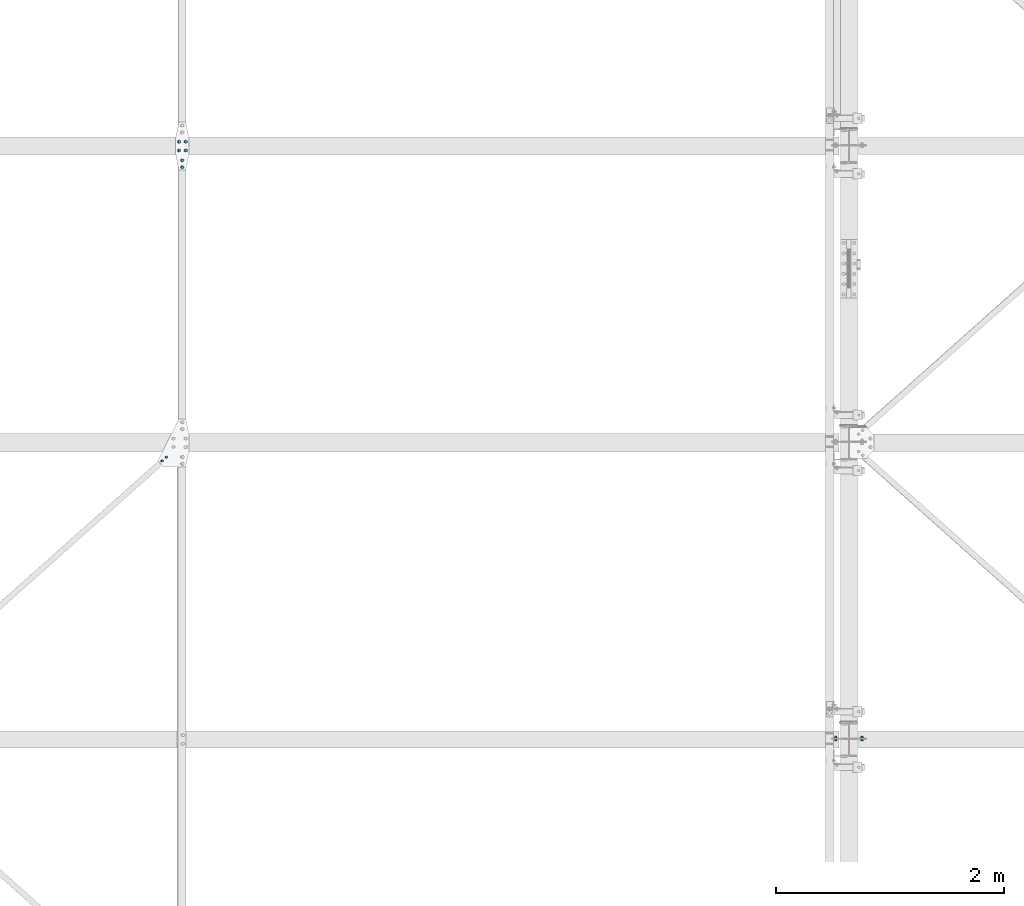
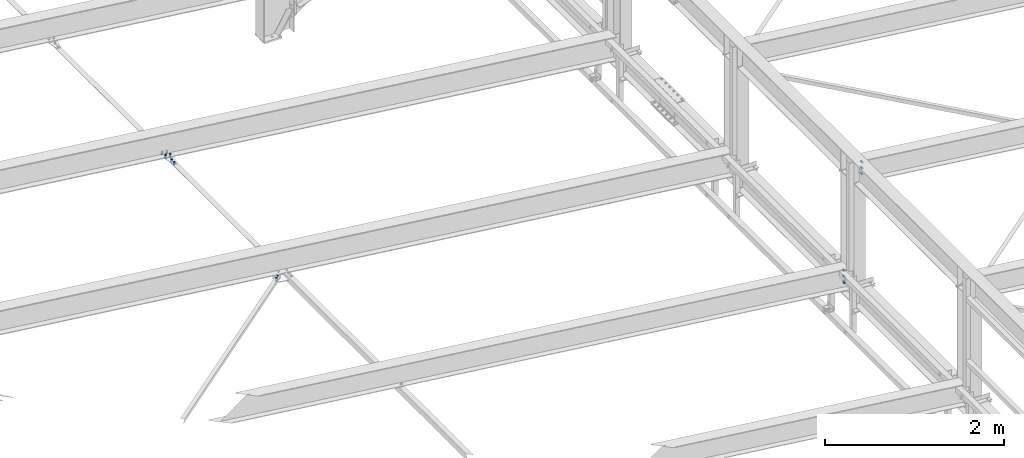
# One storey, part 270 of 3134: 5 mechanical fasteners, 5 elements without a shape of their own.
"""IFC2X3 building model written with IfcOpenShell, lengths in millimetres."""

from ifc_helpers import new_model, si_unit, frame, origin_with_axes, place, context, subcontext, project, spatial, faceted_brep, source, transform, mapped, material, type_object, element, aggregate, save


model = new_model("IFC2X3")

# Units and contexts
model_context = context("Model", 3, precision=1e-05, world=origin_with_axes())
body_context = subcontext(model_context, "Body", "Model", "MODEL_VIEW")
ifc_project = project(units=[si_unit("LENGTHUNIT", "METRE", prefix="MILLI"), si_unit("AREAUNIT", "SQUARE_METRE"), si_unit("VOLUMEUNIT", "CUBIC_METRE"), si_unit("MASSUNIT", "GRAM", prefix="KILO"), si_unit("TIMEUNIT", "SECOND"), si_unit("PLANEANGLEUNIT", "RADIAN"), si_unit("SOLIDANGLEUNIT", "STERADIAN"), si_unit("THERMODYNAMICTEMPERATUREUNIT", "DEGREE_CELSIUS"), si_unit("LUMINOUSINTENSITYUNIT", "LUMEN")], contexts=[model_context])

# Site, building, storey
site_placement = place(None, origin_with_axes())
site = spatial("IfcSite", under=ifc_project, at=site_placement, CompositionType="ELEMENT")
building_placement = place(site_placement, origin_with_axes())
building = spatial("IfcBuilding", under=site, at=building_placement, Name="Undefined", CompositionType="ELEMENT")
storey_placement = place(building_placement, origin_with_axes())
storey = spatial("IfcBuildingStorey", under=building, at=storey_placement, Name="Undefined", CompositionType="ELEMENT", Elevation=0.0)

# Assembly, mechanical fastener
assembly_1_placement = place(storey_placement, origin_with_axes())
assembly_1 = element("IfcElementAssembly", 1, at=assembly_1_placement, inside=storey, Name="PL8", AssemblyPlace="NOTDEFINED", PredefinedType="RIGID_FRAME")
ifc_material = material(Name="8.8")
mechanical_fastener_type = type_object("IfcMechanicalFastenerType", Name="Bolt assembly")
shared_shape_1 = source(origin_with_axes(), body_context, "Body", "Brep", [
    faceted_brep([(10.9696551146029, -36.998574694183, 0.0), (5.48482755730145, -36.998574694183, 9.5), (-5.48482755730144, -36.998574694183, 9.5), (-10.9696551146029, -36.998574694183, 1.34339530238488e-15), (-5.48482755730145, -36.998574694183, -9.5), (5.48482755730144, -36.998574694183, -9.50000000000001), (5.48482755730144, -28.998574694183, -9.50000000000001), (-5.48482755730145, -28.998574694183, -9.5), (-10.9696551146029, -28.998574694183, 1.34339530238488e-15), (-5.48482755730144, -28.998574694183, 9.5), (5.48482755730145, -28.998574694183, 9.5), (10.9696551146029, -28.998574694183, 0.0), (6.0, -28.998574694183, 0.0), (5.19615242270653, -28.998574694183, 3.00000000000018), (2.99999999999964, -28.998574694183, 5.19615242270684), (-6.21801588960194e-13, -28.998574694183, 6.0), (-3.00000000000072, -28.998574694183, 5.19615242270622), (-5.19615242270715, -28.998574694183, 2.9999999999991), (-6.0, -28.998574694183, -1.24360317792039e-12), (-5.19615242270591, -28.998574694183, -3.00000000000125), (-2.99999999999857, -28.998574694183, -5.19615242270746), (1.85874342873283e-12, -28.998574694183, -6.0), (3.00000000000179, -28.998574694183, -5.1961524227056), (5.19615242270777, -28.998574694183, -2.99999999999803), (5.19615242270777, -3.99857469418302, -2.99999999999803), (3.00000000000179, -3.99857469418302, -5.1961524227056), (1.85874342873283e-12, -3.99857469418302, -6.0), (-2.99999999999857, -3.99857469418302, -5.19615242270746), (-5.19615242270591, -3.99857469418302, -3.00000000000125), (-6.0, -3.99857469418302, -1.24360317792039e-12), (-5.19615242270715, -3.99857469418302, 2.9999999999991), (-3.00000000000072, -3.99857469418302, 5.19615242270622), (-6.21801588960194e-13, -3.99857469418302, 6.0), (2.99999999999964, -3.99857469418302, 5.19615242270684), (5.19615242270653, -3.99857469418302, 3.00000000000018), (6.0, -3.99857469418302, 0.0), (10.9696551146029, 4.00000000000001, 0.0), (5.48482755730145, 4.00000000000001, 9.5), (-5.48482755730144, 4.00000000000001, 9.5), (-10.9696551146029, 4.00000000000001, 1.34339530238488e-15), (-5.48482755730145, 4.00000000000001, -9.5), (5.48482755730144, 4.00000000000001, -9.50000000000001), (5.48482755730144, 14.0, -9.50000000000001), (-5.48482755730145, 14.0, -9.5), (-10.9696551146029, 14.0, 1.34339530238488e-15), (-5.48482755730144, 14.0, 9.5), (5.48482755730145, 14.0, 9.5), (10.9696551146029, 14.0, 0.0)], [[[0, 1, 2, 3, 4, 5]], [[6, 7, 8, 9, 10, 11]], [[0, 11, 10, 1]], [[1, 10, 9, 2]], [[2, 9, 8, 3]], [[3, 8, 7, 4]], [[4, 7, 6, 5]], [[5, 6, 11, 0]], [[12, 13, 14, 15, 16, 17, 18, 19, 20, 21, 22, 23]], [[24, 25, 26, 27, 28, 29, 30, 31, 32, 33, 34, 35]], [[12, 35, 34, 13]], [[13, 34, 33, 14]], [[14, 33, 32, 15]], [[15, 32, 31, 16]], [[16, 31, 30, 17]], [[17, 30, 29, 18]], [[18, 29, 28, 19]], [[19, 28, 27, 20]], [[20, 27, 26, 21]], [[21, 26, 25, 22]], [[22, 25, 24, 23]], [[23, 24, 35, 12]], [[36, 37, 38, 39, 40, 41]], [[42, 43, 44, 45, 46, 47]], [[36, 47, 46, 37]], [[37, 46, 45, 38]], [[38, 45, 44, 39]], [[39, 44, 43, 40]], [[40, 43, 42, 41]], [[41, 42, 47, 36]]]),
    faceted_brep([(7.0, -28.898574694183, 0.0), (6.06217782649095, -28.898574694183, 3.50000000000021), (3.49999999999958, -28.898574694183, 6.06217782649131), (-7.25435187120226e-13, -28.898574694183, 7.0), (-3.50000000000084, -28.898574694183, 6.06217782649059), (-6.06217782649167, -28.898574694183, 3.49999999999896), (-7.0, -28.898574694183, -1.45087037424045e-12), (-6.06217782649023, -28.898574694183, -3.50000000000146), (-3.49999999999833, -28.898574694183, -6.06217782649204), (2.1685340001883e-12, -28.898574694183, -7.0), (3.50000000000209, -28.898574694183, -6.06217782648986), (6.0621778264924, -28.898574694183, -3.4999999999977), (6.0621778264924, -23.8985746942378, -3.4999999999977), (3.50000000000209, -23.8985746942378, -6.06217782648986), (2.1685340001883e-12, -23.8985746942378, -7.0), (-3.49999999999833, -23.8985746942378, -6.06217782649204), (-6.06217782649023, -23.8985746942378, -3.50000000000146), (-7.0, -23.8985746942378, -1.45087037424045e-12), (-6.06217782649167, -23.8985746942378, 3.49999999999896), (-3.50000000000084, -23.8985746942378, 6.06217782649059), (-7.25435187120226e-13, -23.8985746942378, 7.0), (3.49999999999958, -23.8985746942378, 6.06217782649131), (6.06217782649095, -23.8985746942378, 3.50000000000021), (7.0, -23.8985746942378, 0.0), (7.0, -4.09998541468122, 0.0), (6.06217782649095, -4.09998541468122, 3.50000000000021), (3.49999999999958, -4.09998541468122, 6.06217782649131), (-7.25435187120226e-13, -4.09998541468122, 7.0), (-3.50000000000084, -4.09998541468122, 6.06217782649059), (-6.06217782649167, -4.09998541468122, 3.49999999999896), (-7.0, -4.09998541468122, -1.45087037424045e-12), (-6.06217782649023, -4.09998541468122, -3.50000000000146), (-3.49999999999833, -4.09998541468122, -6.06217782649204), (2.1685340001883e-12, -4.09998541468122, -7.0), (3.50000000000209, -4.09998541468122, -6.06217782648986), (6.0621778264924, -4.09998541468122, -3.4999999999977), (6.0621778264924, 4.00000000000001, -3.4999999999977), (3.50000000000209, 4.00000000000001, -6.06217782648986), (2.1685340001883e-12, 4.00000000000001, -7.0), (-3.49999999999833, 4.00000000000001, -6.06217782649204), (-6.06217782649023, 4.00000000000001, -3.50000000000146), (-7.0, 4.00000000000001, -1.45087037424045e-12), (-6.06217782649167, 4.00000000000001, 3.49999999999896), (-3.50000000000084, 4.00000000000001, 6.06217782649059), (-7.25435187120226e-13, 4.00000000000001, 7.0), (3.49999999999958, 4.00000000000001, 6.06217782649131), (6.06217782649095, 4.00000000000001, 3.50000000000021), (7.0, 4.00000000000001, 0.0)], [[[0, 1, 2, 3, 4, 5, 6, 7, 8, 9, 10, 11]], [[12, 13, 14, 15, 16, 17, 18, 19, 20, 21, 22, 23]], [[0, 23, 22, 1]], [[1, 22, 21, 2]], [[2, 21, 20, 3]], [[3, 20, 19, 4]], [[4, 19, 18, 5]], [[5, 18, 17, 6]], [[6, 17, 16, 7]], [[7, 16, 15, 8]], [[8, 15, 14, 9]], [[9, 14, 13, 10]], [[10, 13, 12, 11]], [[11, 12, 23, 0]], [[24, 25, 26, 27, 28, 29, 30, 31, 32, 33, 34, 35]], [[36, 37, 38, 39, 40, 41, 42, 43, 44, 45, 46, 47]], [[24, 47, 46, 25]], [[25, 46, 45, 26]], [[26, 45, 44, 27]], [[27, 44, 43, 28]], [[28, 43, 42, 29]], [[29, 42, 41, 30]], [[30, 41, 40, 31]], [[31, 40, 39, 32]], [[32, 39, 38, 33]], [[33, 38, 37, 34]], [[34, 37, 36, 35]], [[35, 36, 47, 24]]]),
])
mechanical_fastener_1_placement = place(assembly_1_placement, frame((38217.212584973, 50524.1418307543, 4787.26488443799), z_axis=(0.657521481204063, -0.749143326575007, -0.0803105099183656), x_axis=(-0.743617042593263, -0.662407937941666, 0.0908263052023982)))
mechanical_fastener_1 = element("IfcMechanicalFastener", 2, at=mechanical_fastener_1_placement, type_object=mechanical_fastener_type, material=ifc_material, Name="Bolt assembly", NominalDiameter=12.0, NominalLength=25.0, context=body_context, shape_type="MappedRepresentation", body=[
    mapped(shared_shape_1, transform((0.0, 0.0, 0.0))),
    mapped(shared_shape_1, transform((50.000000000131, -1.38243194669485e-10, 0.0))),
])
aggregate(assembly_1, [mechanical_fastener_1])

assembly_2_placement = place(storey_placement, origin_with_axes())
assembly_2 = element("IfcElementAssembly", 3, at=assembly_2_placement, inside=storey, Name="PL8", AssemblyPlace="NOTDEFINED", PredefinedType="RIGID_FRAME")
shared_shape_2 = source(origin_with_axes(), body_context, "Body", "Brep", [
    faceted_brep([(13.856406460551, -10.0, 0.0), (6.92820323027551, -10.0, 12.0), (-6.92820323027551, -10.0, 12.0), (-13.856406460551, -10.0, 1.69692038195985e-15), (-6.92820323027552, -10.0, -12.0), (6.9282032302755, -10.0, -12.0), (6.9282032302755, 0.0, -12.0), (-6.92820323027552, 0.0, -12.0), (-13.856406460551, 0.0, 1.69692038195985e-15), (-6.92820323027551, 0.0, 12.0), (6.92820323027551, 0.0, 12.0), (13.856406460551, 0.0, 0.0), (8.0, 0.0, 0.0), (6.92820323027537, 0.0, 4.00000000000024), (3.99999999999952, 0.0, 6.92820323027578), (-8.29068785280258e-13, 0.0, 8.0), (-4.00000000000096, 0.0, 6.92820323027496), (-6.9282032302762, 0.0, 3.99999999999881), (-8.0, 0.0, -1.65813757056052e-12), (-6.92820323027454, 0.0, -4.00000000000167), (-3.99999999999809, 0.0, -6.92820323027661), (2.47832457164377e-12, 0.0, -8.0), (4.00000000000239, 0.0, -6.92820323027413), (6.92820323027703, 0.0, -3.99999999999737), (6.92820323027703, 35.0000000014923, -3.99999999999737), (4.00000000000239, 35.0000000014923, -6.92820323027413), (2.47832457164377e-12, 35.0000000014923, -8.0), (-3.99999999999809, 35.0000000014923, -6.92820323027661), (-6.92820323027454, 35.0000000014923, -4.00000000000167), (-8.0, 35.0000000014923, -1.65813757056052e-12), (-6.9282032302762, 35.0000000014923, 3.99999999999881), (-4.00000000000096, 35.0000000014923, 6.92820323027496), (-8.29068785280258e-13, 35.0000000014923, 8.0), (3.99999999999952, 35.0000000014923, 6.92820323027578), (6.92820323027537, 35.0000000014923, 4.00000000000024), (8.0, 35.0000000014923, 0.0), (13.856406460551, 15.0039204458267, 0.0), (6.92820323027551, 15.0039204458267, 12.0), (-6.92820323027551, 15.0039204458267, 12.0), (-13.856406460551, 15.0039204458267, 1.69692038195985e-15), (-6.92820323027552, 15.0039204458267, -12.0), (6.9282032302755, 15.0039204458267, -12.0), (6.9282032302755, 28.0039204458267, -12.0), (-6.92820323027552, 28.0039204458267, -12.0), (-13.856406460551, 28.0039204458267, 1.69692038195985e-15), (-6.92820323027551, 28.0039204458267, 12.0), (6.92820323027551, 28.0039204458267, 12.0), (13.856406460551, 28.0039204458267, 0.0)], [[[0, 1, 2, 3, 4, 5]], [[6, 7, 8, 9, 10, 11]], [[0, 11, 10, 1]], [[1, 10, 9, 2]], [[2, 9, 8, 3]], [[3, 8, 7, 4]], [[4, 7, 6, 5]], [[5, 6, 11, 0]], [[12, 13, 14, 15, 16, 17, 18, 19, 20, 21, 22, 23]], [[24, 25, 26, 27, 28, 29, 30, 31, 32, 33, 34, 35]], [[12, 35, 34, 13]], [[13, 34, 33, 14]], [[14, 33, 32, 15]], [[15, 32, 31, 16]], [[16, 31, 30, 17]], [[17, 30, 29, 18]], [[18, 29, 28, 19]], [[19, 28, 27, 20]], [[20, 27, 26, 21]], [[21, 26, 25, 22]], [[22, 25, 24, 23]], [[23, 24, 35, 12]], [[36, 37, 38, 39, 40, 41]], [[42, 43, 44, 45, 46, 47]], [[36, 47, 46, 37]], [[37, 46, 45, 38]], [[38, 45, 44, 39]], [[39, 44, 43, 40]], [[40, 43, 42, 41]], [[41, 42, 47, 36]]]),
    faceted_brep([(9.0, 7.90392044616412, 0.0), (7.79422863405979, 7.90392044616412, 4.50000000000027), (4.49999999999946, 7.90392044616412, 7.79422863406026), (-9.3270238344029e-13, 7.90392044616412, 9.0), (-4.50000000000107, 7.90392044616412, 7.79422863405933), (-7.79422863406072, 7.90392044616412, 4.49999999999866), (-9.0, 7.90392044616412, -1.86540476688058e-12), (-7.79422863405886, 7.90392044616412, -4.50000000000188), (-4.49999999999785, 7.90392044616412, -7.79422863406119), (2.78811514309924e-12, 7.90392044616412, -9.0), (4.50000000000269, 7.90392044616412, -7.7942286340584), (7.79422863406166, 7.90392044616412, -4.49999999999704), (7.79422863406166, 15.0039204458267, -4.49999999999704), (4.50000000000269, 15.0039204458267, -7.7942286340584), (2.78811514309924e-12, 15.0039204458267, -9.0), (-4.49999999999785, 15.0039204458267, -7.79422863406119), (-7.79422863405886, 15.0039204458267, -4.50000000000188), (-9.0, 15.0039204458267, -1.86540476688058e-12), (-7.79422863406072, 15.0039204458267, 4.49999999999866), (-4.50000000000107, 15.0039204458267, 7.79422863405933), (-9.3270238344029e-13, 15.0039204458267, 9.0), (4.49999999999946, 15.0039204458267, 7.79422863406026), (7.79422863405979, 15.0039204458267, 4.50000000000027), (9.0, 15.0039204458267, 0.0), (9.0, 0.100000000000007, 0.0), (7.79422863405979, 0.100000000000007, 4.50000000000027), (4.49999999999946, 0.100000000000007, 7.79422863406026), (-9.3270238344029e-13, 0.100000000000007, 9.0), (-4.50000000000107, 0.100000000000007, 7.79422863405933), (-7.79422863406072, 0.100000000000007, 4.49999999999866), (-9.0, 0.100000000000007, -1.86540476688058e-12), (-7.79422863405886, 0.100000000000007, -4.50000000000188), (-4.49999999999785, 0.100000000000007, -7.79422863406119), (2.78811514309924e-12, 0.100000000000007, -9.0), (4.50000000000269, 0.100000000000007, -7.7942286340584), (7.79422863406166, 0.100000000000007, -4.49999999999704), (7.79422863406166, 8.1, -4.49999999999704), (4.50000000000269, 8.1, -7.7942286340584), (2.78811514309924e-12, 8.1, -9.0), (-4.49999999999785, 8.1, -7.79422863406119), (-7.79422863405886, 8.1, -4.50000000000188), (-9.0, 8.1, -1.86540476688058e-12), (-7.79422863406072, 8.1, 4.49999999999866), (-4.50000000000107, 8.1, 7.79422863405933), (-9.3270238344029e-13, 8.1, 9.0), (4.49999999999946, 8.1, 7.79422863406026), (7.79422863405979, 8.1, 4.50000000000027), (9.0, 8.1, 0.0)], [[[0, 1, 2, 3, 4, 5, 6, 7, 8, 9, 10, 11]], [[12, 13, 14, 15, 16, 17, 18, 19, 20, 21, 22, 23]], [[0, 23, 22, 1]], [[1, 22, 21, 2]], [[2, 21, 20, 3]], [[3, 20, 19, 4]], [[4, 19, 18, 5]], [[5, 18, 17, 6]], [[6, 17, 16, 7]], [[7, 16, 15, 8]], [[8, 15, 14, 9]], [[9, 14, 13, 10]], [[10, 13, 12, 11]], [[11, 12, 23, 0]], [[24, 25, 26, 27, 28, 29, 30, 31, 32, 33, 34, 35]], [[36, 37, 38, 39, 40, 41, 42, 43, 44, 45, 46, 47]], [[24, 47, 46, 25]], [[25, 46, 45, 26]], [[26, 45, 44, 27]], [[27, 44, 43, 28]], [[28, 43, 42, 29]], [[29, 42, 41, 30]], [[30, 41, 40, 31]], [[31, 40, 39, 32]], [[32, 39, 38, 33]], [[33, 38, 37, 34]], [[34, 37, 36, 35]], [[35, 36, 47, 24]]]),
])
mechanical_fastener_2_placement = place(assembly_2_placement, frame((38358.9798217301, 53125.0, 4773.97816653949), z_axis=(0.992623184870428, 0.0, -0.121240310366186), x_axis=(0.0, -1.0, 0.0)))
mechanical_fastener_2 = element("IfcMechanicalFastener", 4, at=mechanical_fastener_2_placement, type_object=mechanical_fastener_type, material=ifc_material, Name="Bolt assembly", NominalDiameter=16.0, NominalLength=35.0, context=body_context, shape_type="MappedRepresentation", body=[
    mapped(shared_shape_2, transform((0.0, 0.0, 0.0))),
    mapped(shared_shape_2, transform((59.9999999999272, 0.0, 5.40239852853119e-10))),
])
aggregate(assembly_2, [mechanical_fastener_2])

assembly_3_placement = place(storey_placement, origin_with_axes())
assembly_3 = element("IfcElementAssembly", 5, at=assembly_3_placement, inside=storey, Name="IPE330", AssemblyPlace="NOTDEFINED", PredefinedType="RIGID_FRAME")
shared_shape_3 = source(origin_with_axes(), body_context, "Body", "Brep", [
    faceted_brep([(13.856406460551, -21.4995363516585, 0.0), (6.92820323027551, -21.4995363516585, 12.0), (-6.92820323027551, -21.4995363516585, 12.0), (-13.856406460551, -21.4995363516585, 1.69692038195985e-15), (-6.92820323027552, -21.4995363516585, -12.0), (6.9282032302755, -21.4995363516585, -12.0), (6.9282032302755, -11.4995363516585, -12.0), (-6.92820323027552, -11.4995363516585, -12.0), (-13.856406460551, -11.4995363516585, 1.69692038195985e-15), (-6.92820323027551, -11.4995363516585, 12.0), (6.92820323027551, -11.4995363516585, 12.0), (13.856406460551, -11.4995363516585, 0.0), (8.0, -11.4995363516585, 0.0), (6.92820323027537, -11.4995363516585, 4.00000000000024), (3.99999999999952, -11.4995363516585, 6.92820323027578), (-8.29068785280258e-13, -11.4995363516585, 8.0), (-4.00000000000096, -11.4995363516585, 6.92820323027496), (-6.9282032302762, -11.4995363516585, 3.99999999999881), (-8.0, -11.4995363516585, -1.65813757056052e-12), (-6.92820323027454, -11.4995363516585, -4.00000000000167), (-3.99999999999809, -11.4995363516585, -6.92820323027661), (2.47832457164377e-12, -11.4995363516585, -8.0), (4.00000000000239, -11.4995363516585, -6.92820323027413), (6.92820323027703, -11.4995363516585, -3.99999999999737), (6.92820323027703, 28.5004636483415, -3.99999999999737), (4.00000000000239, 28.5004636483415, -6.92820323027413), (2.47832457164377e-12, 28.5004636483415, -8.0), (-3.99999999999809, 28.5004636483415, -6.92820323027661), (-6.92820323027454, 28.5004636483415, -4.00000000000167), (-8.0, 28.5004636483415, -1.65813757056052e-12), (-6.9282032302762, 28.5004636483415, 3.99999999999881), (-4.00000000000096, 28.5004636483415, 6.92820323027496), (-8.29068785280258e-13, 28.5004636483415, 8.0), (3.99999999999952, 28.5004636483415, 6.92820323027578), (6.92820323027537, 28.5004636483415, 4.00000000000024), (8.0, 28.5004636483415, 0.0), (13.856406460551, 7.9998399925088, 0.0), (6.92820323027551, 7.9998399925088, 12.0), (-6.92820323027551, 7.9998399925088, 12.0), (-13.856406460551, 7.9998399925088, 1.69692038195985e-15), (-6.92820323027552, 7.9998399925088, -12.0), (6.9282032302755, 7.9998399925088, -12.0), (6.9282032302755, 20.9998399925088, -12.0), (-6.92820323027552, 20.9998399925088, -12.0), (-13.856406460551, 20.9998399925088, 1.69692038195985e-15), (-6.92820323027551, 20.9998399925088, 12.0), (6.92820323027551, 20.9998399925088, 12.0), (13.856406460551, 20.9998399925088, 0.0)], [[[0, 1, 2, 3, 4, 5]], [[6, 7, 8, 9, 10, 11]], [[0, 11, 10, 1]], [[1, 10, 9, 2]], [[2, 9, 8, 3]], [[3, 8, 7, 4]], [[4, 7, 6, 5]], [[5, 6, 11, 0]], [[12, 13, 14, 15, 16, 17, 18, 19, 20, 21, 22, 23]], [[24, 25, 26, 27, 28, 29, 30, 31, 32, 33, 34, 35]], [[12, 35, 34, 13]], [[13, 34, 33, 14]], [[14, 33, 32, 15]], [[15, 32, 31, 16]], [[16, 31, 30, 17]], [[17, 30, 29, 18]], [[18, 29, 28, 19]], [[19, 28, 27, 20]], [[20, 27, 26, 21]], [[21, 26, 25, 22]], [[22, 25, 24, 23]], [[23, 24, 35, 12]], [[36, 37, 38, 39, 40, 41]], [[42, 43, 44, 45, 46, 47]], [[36, 47, 46, 37]], [[37, 46, 45, 38]], [[38, 45, 44, 39]], [[39, 44, 43, 40]], [[40, 43, 42, 41]], [[41, 42, 47, 36]]]),
    faceted_brep([(9.0, -0.100160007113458, 0.0), (7.79422863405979, -0.100160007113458, 4.50000000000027), (4.49999999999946, -0.100160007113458, 7.79422863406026), (-9.3270238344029e-13, -0.100160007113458, 9.0), (-4.50000000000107, -0.100160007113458, 7.79422863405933), (-7.79422863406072, -0.100160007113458, 4.49999999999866), (-9.0, -0.100160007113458, -1.86540476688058e-12), (-7.79422863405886, -0.100160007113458, -4.50000000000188), (-4.49999999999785, -0.100160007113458, -7.79422863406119), (2.78811514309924e-12, -0.100160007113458, -9.0), (4.50000000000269, -0.100160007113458, -7.7942286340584), (7.79422863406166, -0.100160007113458, -4.49999999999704), (7.79422863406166, 7.9998399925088, -4.49999999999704), (4.50000000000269, 7.9998399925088, -7.7942286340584), (2.78811514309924e-12, 7.9998399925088, -9.0), (-4.49999999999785, 7.9998399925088, -7.79422863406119), (-7.79422863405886, 7.9998399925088, -4.50000000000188), (-9.0, 7.9998399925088, -1.86540476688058e-12), (-7.79422863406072, 7.9998399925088, 4.49999999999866), (-4.50000000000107, 7.9998399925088, 7.79422863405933), (-9.3270238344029e-13, 7.9998399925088, 9.0), (4.49999999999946, 7.9998399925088, 7.79422863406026), (7.79422863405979, 7.9998399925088, 4.50000000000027), (9.0, 7.9998399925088, 0.0), (9.0, -11.3995363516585, 0.0), (7.79422863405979, -11.3995363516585, 4.50000000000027), (4.49999999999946, -11.3995363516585, 7.79422863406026), (-9.3270238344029e-13, -11.3995363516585, 9.0), (-4.50000000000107, -11.3995363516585, 7.79422863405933), (-7.79422863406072, -11.3995363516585, 4.49999999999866), (-9.0, -11.3995363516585, -1.86540476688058e-12), (-7.79422863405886, -11.3995363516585, -4.50000000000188), (-4.49999999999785, -11.3995363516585, -7.79422863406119), (2.78811514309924e-12, -11.3995363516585, -9.0), (4.50000000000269, -11.3995363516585, -7.7942286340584), (7.79422863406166, -11.3995363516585, -4.49999999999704), (7.79422863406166, 0.100463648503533, -4.49999999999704), (4.50000000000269, 0.100463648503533, -7.7942286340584), (2.78811514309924e-12, 0.100463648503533, -9.0), (-4.49999999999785, 0.100463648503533, -7.79422863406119), (-7.79422863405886, 0.100463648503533, -4.50000000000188), (-9.0, 0.100463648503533, -1.86540476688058e-12), (-7.79422863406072, 0.100463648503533, 4.49999999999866), (-4.50000000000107, 0.100463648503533, 7.79422863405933), (-9.3270238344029e-13, 0.100463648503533, 9.0), (4.49999999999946, 0.100463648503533, 7.79422863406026), (7.79422863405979, 0.100463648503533, 4.50000000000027), (9.0, 0.100463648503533, 0.0)], [[[0, 1, 2, 3, 4, 5, 6, 7, 8, 9, 10, 11]], [[12, 13, 14, 15, 16, 17, 18, 19, 20, 21, 22, 23]], [[0, 23, 22, 1]], [[1, 22, 21, 2]], [[2, 21, 20, 3]], [[3, 20, 19, 4]], [[4, 19, 18, 5]], [[5, 18, 17, 6]], [[6, 17, 16, 7]], [[7, 16, 15, 8]], [[8, 15, 14, 9]], [[9, 14, 13, 10]], [[10, 13, 12, 11]], [[11, 12, 23, 0]], [[24, 25, 26, 27, 28, 29, 30, 31, 32, 33, 34, 35]], [[36, 37, 38, 39, 40, 41, 42, 43, 44, 45, 46, 47]], [[24, 47, 46, 25]], [[25, 46, 45, 26]], [[26, 45, 44, 27]], [[27, 44, 43, 28]], [[28, 43, 42, 29]], [[29, 42, 41, 30]], [[30, 41, 40, 31]], [[31, 40, 39, 32]], [[32, 39, 38, 33]], [[33, 38, 37, 34]], [[34, 37, 36, 35]], [[35, 36, 47, 24]]]),
])
mechanical_fastener_3_placement = place(assembly_3_placement, frame((38358.9798217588, 53212.0, 4773.97816653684), z_axis=(-0.992622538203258, 0.0, 0.121245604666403), x_axis=(0.0, 1.0, 0.0)))
mechanical_fastener_3 = element("IfcMechanicalFastener", 6, at=mechanical_fastener_3_placement, type_object=mechanical_fastener_type, material=ifc_material, Name="Bolt assembly", NominalDiameter=16.0, NominalLength=40.0, context=body_context, shape_type="MappedRepresentation", body=[
    mapped(shared_shape_3, transform((0.0, 4.54747350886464e-13, -30.0000000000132))),
    mapped(shared_shape_3, transform((76.0, -2.00088834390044e-10, -29.9999999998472))),
    mapped(shared_shape_3, transform((0.0, 4.54747350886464e-13, 30.0000000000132))),
    mapped(shared_shape_3, transform((76.0, 1.98269844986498e-10, 29.9999999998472))),
])
aggregate(assembly_3, [mechanical_fastener_3])

assembly_4_placement = place(storey_placement, origin_with_axes())
assembly_4 = element("IfcElementAssembly", 7, at=assembly_4_placement, inside=storey, Name="300", AssemblyPlace="NOTDEFINED", PredefinedType="RIGID_FRAME")
shared_shape_4 = source(origin_with_axes(), body_context, "Body", "Brep", [
    faceted_brep([(13.856406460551, -13.0499999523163, 0.0), (6.92820323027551, -13.0499999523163, 12.0), (-6.92820323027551, -13.0499999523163, 12.0), (-13.856406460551, -13.0499999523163, 1.69692038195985e-15), (-6.92820323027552, -13.0499999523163, -12.0), (6.9282032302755, -13.0499999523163, -12.0), (6.9282032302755, -3.04999995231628, -12.0), (-6.92820323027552, -3.04999995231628, -12.0), (-13.856406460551, -3.04999995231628, 1.69692038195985e-15), (-6.92820323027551, -3.04999995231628, 12.0), (6.92820323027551, -3.04999995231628, 12.0), (13.856406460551, -3.04999995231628, 0.0), (8.0, -3.04999995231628, 0.0), (6.92820323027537, -3.04999995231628, 4.00000000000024), (3.99999999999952, -3.04999995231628, 6.92820323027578), (-8.29068785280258e-13, -3.04999995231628, 8.0), (-4.00000000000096, -3.04999995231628, 6.92820323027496), (-6.9282032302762, -3.04999995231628, 3.99999999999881), (-8.0, -3.04999995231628, -1.65813757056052e-12), (-6.92820323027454, -3.04999995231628, -4.00000000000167), (-3.99999999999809, -3.04999995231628, -6.92820323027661), (2.47832457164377e-12, -3.04999995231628, -8.0), (4.00000000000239, -3.04999995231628, -6.92820323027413), (6.92820323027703, -3.04999995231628, -3.99999999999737), (6.92820323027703, 31.9500000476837, -3.99999999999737), (4.00000000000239, 31.9500000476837, -6.92820323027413), (2.47832457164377e-12, 31.9500000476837, -8.0), (-3.99999999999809, 31.9500000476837, -6.92820323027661), (-6.92820323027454, 31.9500000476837, -4.00000000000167), (-8.0, 31.9500000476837, -1.65813757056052e-12), (-6.9282032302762, 31.9500000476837, 3.99999999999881), (-4.00000000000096, 31.9500000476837, 6.92820323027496), (-8.29068785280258e-13, 31.9500000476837, 8.0), (3.99999999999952, 31.9500000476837, 6.92820323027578), (6.92820323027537, 31.9500000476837, 4.00000000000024), (8.0, 31.9500000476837, 0.0), (13.856406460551, 13.0500000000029, 0.0), (6.92820323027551, 13.0500000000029, 12.0), (-6.92820323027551, 13.0500000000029, 12.0), (-13.856406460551, 13.0500000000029, 1.69692038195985e-15), (-6.92820323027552, 13.0500000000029, -12.0), (6.9282032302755, 13.0500000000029, -12.0), (6.9282032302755, 26.0500000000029, -12.0), (-6.92820323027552, 26.0500000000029, -12.0), (-13.856406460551, 26.0500000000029, 1.69692038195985e-15), (-6.92820323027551, 26.0500000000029, 12.0), (6.92820323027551, 26.0500000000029, 12.0), (13.856406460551, 26.0500000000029, 0.0)], [[[0, 1, 2, 3, 4, 5]], [[6, 7, 8, 9, 10, 11]], [[0, 11, 10, 1]], [[1, 10, 9, 2]], [[2, 9, 8, 3]], [[3, 8, 7, 4]], [[4, 7, 6, 5]], [[5, 6, 11, 0]], [[12, 13, 14, 15, 16, 17, 18, 19, 20, 21, 22, 23]], [[24, 25, 26, 27, 28, 29, 30, 31, 32, 33, 34, 35]], [[12, 35, 34, 13]], [[13, 34, 33, 14]], [[14, 33, 32, 15]], [[15, 32, 31, 16]], [[16, 31, 30, 17]], [[17, 30, 29, 18]], [[18, 29, 28, 19]], [[19, 28, 27, 20]], [[20, 27, 26, 21]], [[21, 26, 25, 22]], [[22, 25, 24, 23]], [[23, 24, 35, 12]], [[36, 37, 38, 39, 40, 41]], [[42, 43, 44, 45, 46, 47]], [[36, 47, 46, 37]], [[37, 46, 45, 38]], [[38, 45, 44, 39]], [[39, 44, 43, 40]], [[40, 43, 42, 41]], [[41, 42, 47, 36]]]),
    faceted_brep([(9.0, 2.95000000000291, 0.0), (7.79422863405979, 2.95000000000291, 4.50000000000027), (4.49999999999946, 2.95000000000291, 7.79422863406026), (-9.3270238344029e-13, 2.95000000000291, 9.0), (-4.50000000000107, 2.95000000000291, 7.79422863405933), (-7.79422863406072, 2.95000000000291, 4.49999999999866), (-9.0, 2.95000000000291, -1.86540476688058e-12), (-7.79422863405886, 2.95000000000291, -4.50000000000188), (-4.49999999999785, 2.95000000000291, -7.79422863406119), (2.78811514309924e-12, 2.95000000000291, -9.0), (4.50000000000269, 2.95000000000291, -7.7942286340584), (7.79422863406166, 2.95000000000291, -4.49999999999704), (7.79422863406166, 13.0500000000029, -4.49999999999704), (4.50000000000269, 13.0500000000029, -7.7942286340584), (2.78811514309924e-12, 13.0500000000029, -9.0), (-4.49999999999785, 13.0500000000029, -7.79422863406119), (-7.79422863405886, 13.0500000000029, -4.50000000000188), (-9.0, 13.0500000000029, -1.86540476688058e-12), (-7.79422863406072, 13.0500000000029, 4.49999999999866), (-4.50000000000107, 13.0500000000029, 7.79422863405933), (-9.3270238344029e-13, 13.0500000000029, 9.0), (4.49999999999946, 13.0500000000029, 7.79422863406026), (7.79422863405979, 13.0500000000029, 4.50000000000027), (9.0, 13.0500000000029, 0.0), (9.0, -2.94999995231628, 0.0), (7.79422863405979, -2.94999995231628, 4.50000000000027), (4.49999999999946, -2.94999995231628, 7.79422863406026), (-9.3270238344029e-13, -2.94999995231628, 9.0), (-4.50000000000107, -2.94999995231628, 7.79422863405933), (-7.79422863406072, -2.94999995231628, 4.49999999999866), (-9.0, -2.94999995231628, -1.86540476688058e-12), (-7.79422863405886, -2.94999995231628, -4.50000000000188), (-4.49999999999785, -2.94999995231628, -7.79422863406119), (2.78811514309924e-12, -2.94999995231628, -9.0), (4.50000000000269, -2.94999995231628, -7.7942286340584), (7.79422863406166, -2.94999995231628, -4.49999999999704), (7.79422863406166, 3.14999995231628, -4.49999999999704), (4.50000000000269, 3.14999995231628, -7.7942286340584), (2.78811514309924e-12, 3.14999995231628, -9.0), (-4.49999999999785, 3.14999995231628, -7.79422863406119), (-7.79422863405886, 3.14999995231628, -4.50000000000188), (-9.0, 3.14999995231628, -1.86540476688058e-12), (-7.79422863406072, 3.14999995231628, 4.49999999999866), (-4.50000000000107, 3.14999995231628, 7.79422863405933), (-9.3270238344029e-13, 3.14999995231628, 9.0), (4.49999999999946, 3.14999995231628, 7.79422863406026), (7.79422863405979, 3.14999995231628, 4.50000000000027), (9.0, 3.14999995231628, 0.0)], [[[0, 1, 2, 3, 4, 5, 6, 7, 8, 9, 10, 11]], [[12, 13, 14, 15, 16, 17, 18, 19, 20, 21, 22, 23]], [[0, 23, 22, 1]], [[1, 22, 21, 2]], [[2, 21, 20, 3]], [[3, 20, 19, 4]], [[4, 19, 18, 5]], [[5, 18, 17, 6]], [[6, 17, 16, 7]], [[7, 16, 15, 8]], [[8, 15, 14, 9]], [[9, 14, 13, 10]], [[10, 13, 12, 11]], [[11, 12, 23, 0]], [[24, 25, 26, 27, 28, 29, 30, 31, 32, 33, 34, 35]], [[36, 37, 38, 39, 40, 41, 42, 43, 44, 45, 46, 47]], [[24, 47, 46, 25]], [[25, 46, 45, 26]], [[26, 45, 44, 27]], [[27, 44, 43, 28]], [[28, 43, 42, 29]], [[29, 42, 41, 30]], [[30, 41, 40, 31]], [[31, 40, 39, 32]], [[32, 39, 38, 33]], [[33, 38, 37, 34]], [[34, 37, 36, 35]], [[35, 36, 47, 24]]]),
])
mechanical_fastener_4_placement = place(assembly_4_placement, frame((44085.0, 48050.0, 4337.44269270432), z_axis=(1.0, 0.0, 0.0), x_axis=(0.0, 0.0, -1.0)))
mechanical_fastener_4 = element("IfcMechanicalFastener", 8, at=mechanical_fastener_4_placement, type_object=mechanical_fastener_type, material=ifc_material, Name="Bolt assembly", NominalDiameter=16.0, NominalLength=35.0, context=body_context, shape_type="MappedRepresentation", body=[
    mapped(shared_shape_4, transform((0.0, 0.0, 0.0))),
    mapped(shared_shape_4, transform((80.0, 0.0, 0.0))),
    mapped(shared_shape_4, transform((160.0, 0.0, 0.0))),
])
aggregate(assembly_4, [mechanical_fastener_4])

assembly_5_placement = place(storey_placement, origin_with_axes())
assembly_5 = element("IfcElementAssembly", 9, at=assembly_5_placement, inside=storey, Name="300", AssemblyPlace="NOTDEFINED", PredefinedType="RIGID_FRAME")
mechanical_fastener_5_placement = place(assembly_5_placement, frame((44315.0, 48050.0, 5735.35014950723), z_axis=(1.0, 0.0, 0.0), x_axis=(0.0, 0.0, -1.0)))
mechanical_fastener_5 = element("IfcMechanicalFastener", 10, at=mechanical_fastener_5_placement, type_object=mechanical_fastener_type, material=ifc_material, Name="Bolt assembly", NominalDiameter=16.0, NominalLength=35.0, context=body_context, shape_type="MappedRepresentation", body=[
    mapped(shared_shape_4, transform((0.0, 0.0, 0.0))),
    mapped(shared_shape_4, transform((80.0, 0.0, 0.0))),
    mapped(shared_shape_4, transform((160.0, 0.0, 0.0))),
])
aggregate(assembly_5, [mechanical_fastener_5])

save(model, "model.ifc")
